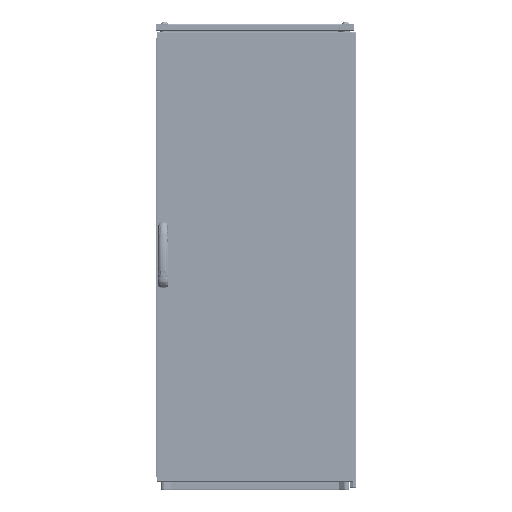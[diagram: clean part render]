
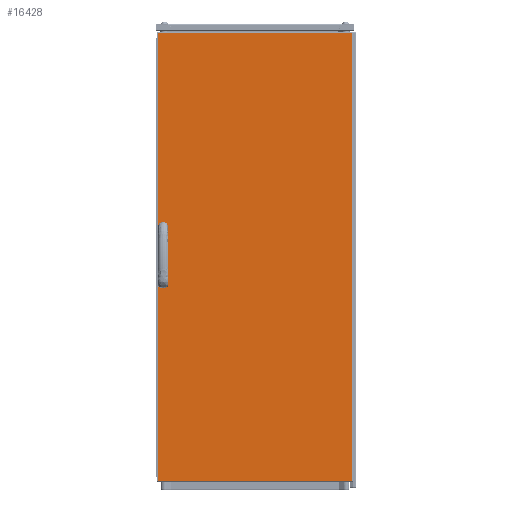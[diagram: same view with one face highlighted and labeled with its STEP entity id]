
A CAD part, top view. The second image highlights one B-rep face of the part: STEP entity #16428.
In plain terms, the highlighted planar face has unit normal (0, 0, 1).
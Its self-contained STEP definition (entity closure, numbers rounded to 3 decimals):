
#1769 = CARTESIAN_POINT ( 'NONE',  ( 3., 1357., 19. ) ) ;
#3126 = ORIENTED_EDGE ( 'NONE', *, *, #181897, .F. ) ;
#3877 = EDGE_CURVE ( 'NONE', #197756, #106680, #83937, .T. ) ;
#4322 = AXIS2_PLACEMENT_3D ( 'NONE', #143744, #256997, #109988 ) ;
#5828 = EDGE_CURVE ( 'NONE', #153473, #80518, #273166, .T. ) ;
#6362 = CARTESIAN_POINT ( 'NONE',  ( 28.7, 599.75, 19. ) ) ;
#15980 = CARTESIAN_POINT ( 'NONE',  ( 592., 1360., 19. ) ) ;
#16428 = ADVANCED_FACE ( 'NONE', ( #160460, #245090, #55146 ), #224287, .F. ) ;
#17560 = CARTESIAN_POINT ( 'NONE',  ( 28.7, 712.25, 19. ) ) ;
#22346 = DIRECTION ( 'NONE',  ( 0., 1., 0. ) ) ;
#22393 = EDGE_CURVE ( 'NONE', #80518, #248539, #232851, .T. ) ;
#33283 = CARTESIAN_POINT ( 'NONE',  ( 9.7, 647.75, 19. ) ) ;
#37211 = VECTOR ( 'NONE', #226414, 1000. ) ;
#39348 = EDGE_LOOP ( 'NONE', ( #61970, #62496, #135518, #120014 ) ) ;
#39502 = LINE ( 'NONE', #15980, #50094 ) ;
#40597 = VERTEX_POINT ( 'NONE', #247532 ) ;
#42620 = AXIS2_PLACEMENT_3D ( 'NONE', #47248, #176148, #131802 ) ;
#47248 = CARTESIAN_POINT ( 'NONE',  ( 19.2, 760.25, 19. ) ) ;
#50094 = VECTOR ( 'NONE', #124064, 1000. ) ;
#51001 = VECTOR ( 'NONE', #142900, 1000. ) ;
#55146 = FACE_OUTER_BOUND ( 'NONE', #39348, .T. ) ;
#56430 = AXIS2_PLACEMENT_3D ( 'NONE', #83406, #105588, #102878 ) ;
#56571 = EDGE_CURVE ( 'NONE', #78727, #162155, #82587, .T. ) ;
#61970 = ORIENTED_EDGE ( 'NONE', *, *, #141346, .T. ) ;
#62496 = ORIENTED_EDGE ( 'NONE', *, *, #3877, .T. ) ;
#64063 = CARTESIAN_POINT ( 'NONE',  ( 3., 1360., 19. ) ) ;
#78727 = VERTEX_POINT ( 'NONE', #87277 ) ;
#80518 = VERTEX_POINT ( 'NONE', #186956 ) ;
#82587 = CIRCLE ( 'NONE', #153444, 9.5 ) ;
#83406 = CARTESIAN_POINT ( 'NONE',  ( 19.2, 599.75, 19. ) ) ;
#83937 = LINE ( 'NONE', #149093, #217218 ) ;
#86620 = LINE ( 'NONE', #232314, #181721 ) ;
#87277 = CARTESIAN_POINT ( 'NONE',  ( 28.7, 647.75, 19. ) ) ;
#93852 = VECTOR ( 'NONE', #231597, 1000. ) ;
#102878 = DIRECTION ( 'NONE',  ( 1., 0., 0. ) ) ;
#105351 = EDGE_LOOP ( 'NONE', ( #118836, #261909, #157329, #164096 ) ) ;
#105588 = DIRECTION ( 'NONE',  ( 0., 0., 1. ) ) ;
#106680 = VERTEX_POINT ( 'NONE', #1769 ) ;
#108094 = CARTESIAN_POINT ( 'NONE',  ( 28.7, 760.25, 19. ) ) ;
#109988 = DIRECTION ( 'NONE',  ( -1., 0., 0. ) ) ;
#110483 = EDGE_CURVE ( 'NONE', #162750, #78727, #129059, .T. ) ;
#112519 = ORIENTED_EDGE ( 'NONE', *, *, #56571, .F. ) ;
#116184 = CARTESIAN_POINT ( 'NONE',  ( 9.7, 712.25, 19. ) ) ;
#118836 = ORIENTED_EDGE ( 'NONE', *, *, #257950, .F. ) ;
#120014 = ORIENTED_EDGE ( 'NONE', *, *, #196195, .T. ) ;
#124064 = DIRECTION ( 'NONE',  ( 0., 1., 0. ) ) ;
#124623 = EDGE_CURVE ( 'NONE', #106680, #129243, #165320, .T. ) ;
#129059 = LINE ( 'NONE', #190102, #263991 ) ;
#129243 = VERTEX_POINT ( 'NONE', #266578 ) ;
#131802 = DIRECTION ( 'NONE',  ( 1., 0., 0. ) ) ;
#134340 = AXIS2_PLACEMENT_3D ( 'NONE', #265238, #225004, #161193 ) ;
#135518 = ORIENTED_EDGE ( 'NONE', *, *, #124623, .T. ) ;
#138328 = EDGE_LOOP ( 'NONE', ( #170644, #112519, #232813, #3126 ) ) ;
#141346 = EDGE_CURVE ( 'NONE', #142868, #197756, #39502, .T. ) ;
#141539 = CARTESIAN_POINT ( 'NONE',  ( 9.7, 760.25, 19. ) ) ;
#142868 = VERTEX_POINT ( 'NONE', #229511 ) ;
#142900 = DIRECTION ( 'NONE',  ( 0., -1., 0. ) ) ;
#143744 = CARTESIAN_POINT ( 'NONE',  ( 0., 1360., 19. ) ) ;
#149093 = CARTESIAN_POINT ( 'NONE',  ( 0., 1357., 19. ) ) ;
#153444 = AXIS2_PLACEMENT_3D ( 'NONE', #176829, #217095, #240639 ) ;
#153473 = VERTEX_POINT ( 'NONE', #17560 ) ;
#156492 = CIRCLE ( 'NONE', #134340, 9.5 ) ;
#157329 = ORIENTED_EDGE ( 'NONE', *, *, #5828, .F. ) ;
#160460 = FACE_BOUND ( 'NONE', #138328, .T. ) ;
#161193 = DIRECTION ( 'NONE',  ( 1., 0., 0. ) ) ;
#162155 = VERTEX_POINT ( 'NONE', #33283 ) ;
#162750 = VERTEX_POINT ( 'NONE', #6362 ) ;
#164096 = ORIENTED_EDGE ( 'NONE', *, *, #164462, .F. ) ;
#164462 = EDGE_CURVE ( 'NONE', #217841, #153473, #156492, .T. ) ;
#165320 = LINE ( 'NONE', #64063, #37211 ) ;
#169311 = VECTOR ( 'NONE', #171206, 1000. ) ;
#170644 = ORIENTED_EDGE ( 'NONE', *, *, #213310, .F. ) ;
#171206 = DIRECTION ( 'NONE',  ( 0., -1., 0. ) ) ;
#172584 = DIRECTION ( 'NONE',  ( 1., 0., 0. ) ) ;
#176148 = DIRECTION ( 'NONE',  ( 0., 0., 1. ) ) ;
#176829 = CARTESIAN_POINT ( 'NONE',  ( 19.2, 647.75, 19. ) ) ;
#181721 = VECTOR ( 'NONE', #172584, 1000. ) ;
#181897 = EDGE_CURVE ( 'NONE', #40597, #162750, #229007, .T. ) ;
#186956 = CARTESIAN_POINT ( 'NONE',  ( 28.7, 760.25, 19. ) ) ;
#187254 = LINE ( 'NONE', #141539, #51001 ) ;
#190102 = CARTESIAN_POINT ( 'NONE',  ( 28.7, 647.75, 19. ) ) ;
#196195 = EDGE_CURVE ( 'NONE', #129243, #142868, #86620, .T. ) ;
#197756 = VERTEX_POINT ( 'NONE', #203017 ) ;
#203017 = CARTESIAN_POINT ( 'NONE',  ( 592., 1357., 19. ) ) ;
#207440 = DIRECTION ( 'NONE',  ( -1., 0., 0. ) ) ;
#209827 = CARTESIAN_POINT ( 'NONE',  ( 9.7, 760.25, 19. ) ) ;
#210132 = LINE ( 'NONE', #211478, #169311 ) ;
#211478 = CARTESIAN_POINT ( 'NONE',  ( 9.7, 647.75, 19. ) ) ;
#213310 = EDGE_CURVE ( 'NONE', #162155, #40597, #210132, .T. ) ;
#217095 = DIRECTION ( 'NONE',  ( 0., 0., 1. ) ) ;
#217218 = VECTOR ( 'NONE', #207440, 1000. ) ;
#217841 = VERTEX_POINT ( 'NONE', #116184 ) ;
#224287 = PLANE ( 'NONE',  #4322 ) ;
#225004 = DIRECTION ( 'NONE',  ( 0., 0., 1. ) ) ;
#226414 = DIRECTION ( 'NONE',  ( 0., -1., 0. ) ) ;
#229007 = CIRCLE ( 'NONE', #56430, 9.5 ) ;
#229511 = CARTESIAN_POINT ( 'NONE',  ( 592., 3., 19. ) ) ;
#231597 = DIRECTION ( 'NONE',  ( 0., 1., 0. ) ) ;
#232314 = CARTESIAN_POINT ( 'NONE',  ( 0., 3., 19. ) ) ;
#232813 = ORIENTED_EDGE ( 'NONE', *, *, #110483, .F. ) ;
#232851 = CIRCLE ( 'NONE', #42620, 9.5 ) ;
#240639 = DIRECTION ( 'NONE',  ( 1., 0., 0. ) ) ;
#245090 = FACE_BOUND ( 'NONE', #105351, .T. ) ;
#247532 = CARTESIAN_POINT ( 'NONE',  ( 9.7, 599.75, 19. ) ) ;
#248539 = VERTEX_POINT ( 'NONE', #209827 ) ;
#256997 = DIRECTION ( 'NONE',  ( 0., 0., -1. ) ) ;
#257950 = EDGE_CURVE ( 'NONE', #248539, #217841, #187254, .T. ) ;
#261909 = ORIENTED_EDGE ( 'NONE', *, *, #22393, .F. ) ;
#263991 = VECTOR ( 'NONE', #22346, 1000. ) ;
#265238 = CARTESIAN_POINT ( 'NONE',  ( 19.2, 712.25, 19. ) ) ;
#266578 = CARTESIAN_POINT ( 'NONE',  ( 3., 3., 19. ) ) ;
#273166 = LINE ( 'NONE', #108094, #93852 ) ;
